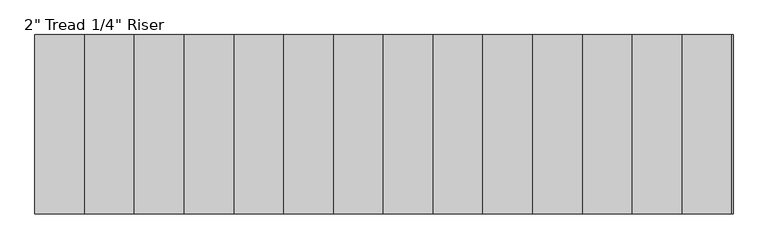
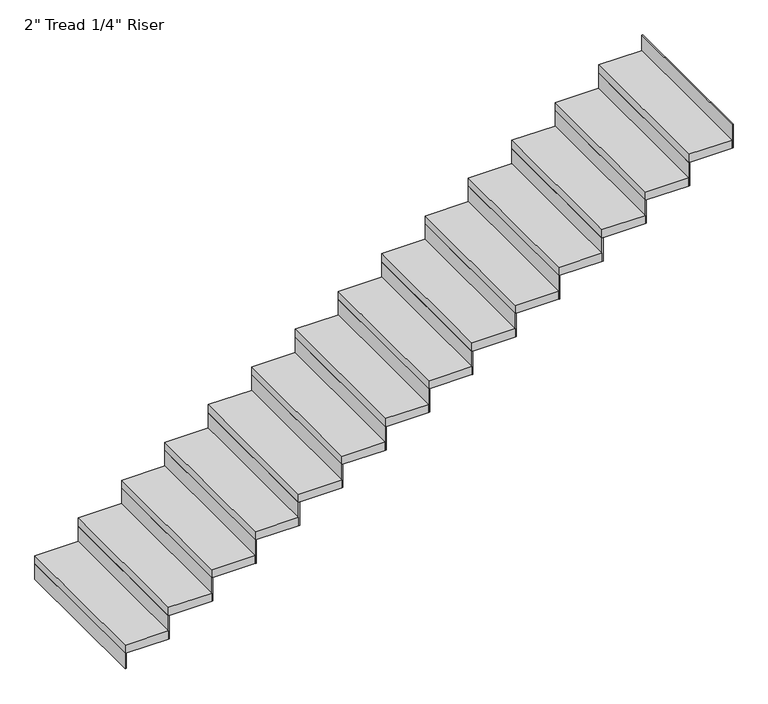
"""IFC4 building model written with IfcOpenShell, lengths in millimetres: stair flight geometry."""

from ifc_helpers import new_model, si_unit, frame, origin, origin_with_axes, place, context, project, spatial, polyline, outline, extrude, source, transform, mapped, element, save


def stair_flight_39228297(model_context):
    return source(origin(), model_context, "Body", "SweptSolid", [
        extrude(outline(polyline([(157738.5528142, 32332.2812523), (157732.2028142, 32332.2812523), (157732.2028142, 33246.6812523), (157738.5528142, 33246.6812523), (157738.5528142, 32332.2812523)])), origin_with_axes(), (0.0, 0.0, 1.0), 94.3428571),
        extrude(outline(polyline([(157986.2028142, 33246.6812523), (157986.2028142, 32332.2812523), (157732.2028142, 32332.2812523), (157732.2028142, 33246.6812523), (157986.2028142, 33246.6812523)])), frame((0.0, 0.0, 94.3428571), z_axis=(0.0, 0.0, 1.0), x_axis=(1.0, 0.0, 0.0)), (0.0, 0.0, 1.0), 50.8),
        extrude(outline(polyline([(157992.5528142, 32332.2812523), (157986.2028142, 32332.2812523), (157986.2028142, 33246.6812523), (157992.5528142, 33246.6812523), (157992.5528142, 32332.2812523)])), frame((0.0, 0.0, 94.3428571), z_axis=(0.0, 0.0, 1.0), x_axis=(1.0, 0.0, 0.0)), (0.0, 0.0, 1.0), 145.1428571),
        extrude(outline(polyline([(158240.2028142, 33246.6812523), (158240.2028142, 32332.2812523), (157986.2028142, 32332.2812523), (157986.2028142, 33246.6812523), (158240.2028142, 33246.6812523)])), frame((0.0, 0.0, 239.4857143), z_axis=(0.0, 0.0, 1.0), x_axis=(1.0, 0.0, 0.0)), (0.0, 0.0, 1.0), 50.8),
        extrude(outline(polyline([(158246.5528142, 32332.2812523), (158240.2028142, 32332.2812523), (158240.2028142, 33246.6812523), (158246.5528142, 33246.6812523), (158246.5528142, 32332.2812523)])), frame((0.0, 0.0, 239.4857143), z_axis=(0.0, 0.0, 1.0), x_axis=(1.0, 0.0, 0.0)), (0.0, 0.0, 1.0), 145.1428571),
        extrude(outline(polyline([(158494.2028142, 33246.6812523), (158494.2028142, 32332.2812523), (158240.2028142, 32332.2812523), (158240.2028142, 33246.6812523), (158494.2028142, 33246.6812523)])), frame((0.0, 0.0, 384.6285714), z_axis=(0.0, 0.0, 1.0), x_axis=(1.0, 0.0, 0.0)), (0.0, 0.0, 1.0), 50.8),
        extrude(outline(polyline([(158500.5528142, 32332.2812523), (158494.2028142, 32332.2812523), (158494.2028142, 33246.6812523), (158500.5528142, 33246.6812523), (158500.5528142, 32332.2812523)])), frame((0.0, 0.0, 384.6285714), z_axis=(0.0, 0.0, 1.0), x_axis=(1.0, 0.0, 0.0)), (0.0, 0.0, 1.0), 145.1428571),
        extrude(outline(polyline([(158748.2028142, 33246.6812523), (158748.2028142, 32332.2812523), (158494.2028142, 32332.2812523), (158494.2028142, 33246.6812523), (158748.2028142, 33246.6812523)])), frame((0.0, 0.0, 529.7714286), z_axis=(0.0, 0.0, 1.0), x_axis=(1.0, 0.0, 0.0)), (0.0, 0.0, 1.0), 50.8),
        extrude(outline(polyline([(158754.5528142, 32332.2812523), (158748.2028142, 32332.2812523), (158748.2028142, 33246.6812523), (158754.5528142, 33246.6812523), (158754.5528142, 32332.2812523)])), frame((0.0, 0.0, 529.7714286), z_axis=(0.0, 0.0, 1.0), x_axis=(1.0, 0.0, 0.0)), (0.0, 0.0, 1.0), 145.1428571),
        extrude(outline(polyline([(159002.2028142, 33246.6812523), (159002.2028142, 32332.2812523), (158748.2028142, 32332.2812523), (158748.2028142, 33246.6812523), (159002.2028142, 33246.6812523)])), frame((0.0, 0.0, 674.9142857), z_axis=(0.0, 0.0, 1.0), x_axis=(1.0, 0.0, 0.0)), (0.0, 0.0, 1.0), 50.8),
        extrude(outline(polyline([(159008.5528142, 32332.2812523), (159002.2028142, 32332.2812523), (159002.2028142, 33246.6812523), (159008.5528142, 33246.6812523), (159008.5528142, 32332.2812523)])), frame((0.0, 0.0, 674.9142857), z_axis=(0.0, 0.0, 1.0), x_axis=(1.0, 0.0, 0.0)), (0.0, 0.0, 1.0), 145.1428571),
        extrude(outline(polyline([(159256.2028142, 33246.6812523), (159256.2028142, 32332.2812523), (159002.2028142, 32332.2812523), (159002.2028142, 33246.6812523), (159256.2028142, 33246.6812523)])), frame((0.0, 0.0, 820.0571429), z_axis=(0.0, 0.0, 1.0), x_axis=(1.0, 0.0, 0.0)), (0.0, 0.0, 1.0), 50.8),
        extrude(outline(polyline([(159262.5528142, 32332.2812523), (159256.2028142, 32332.2812523), (159256.2028142, 33246.6812523), (159262.5528142, 33246.6812523), (159262.5528142, 32332.2812523)])), frame((0.0, 0.0, 820.0571429), z_axis=(0.0, 0.0, 1.0), x_axis=(1.0, 0.0, 0.0)), (0.0, 0.0, 1.0), 145.1428571),
        extrude(outline(polyline([(159510.2028142, 33246.6812523), (159510.2028142, 32332.2812523), (159256.2028142, 32332.2812523), (159256.2028142, 33246.6812523), (159510.2028142, 33246.6812523)])), frame((0.0, 0.0, 965.2), z_axis=(0.0, 0.0, 1.0), x_axis=(1.0, 0.0, 0.0)), (0.0, 0.0, 1.0), 50.8),
        extrude(outline(polyline([(159516.5528142, 32332.2812523), (159510.2028142, 32332.2812523), (159510.2028142, 33246.6812523), (159516.5528142, 33246.6812523), (159516.5528142, 32332.2812523)])), frame((0.0, 0.0, 965.2), z_axis=(0.0, 0.0, 1.0), x_axis=(1.0, 0.0, 0.0)), (0.0, 0.0, 1.0), 145.1428571),
        extrude(outline(polyline([(159764.2028142, 33246.6812523), (159764.2028142, 32332.2812523), (159510.2028142, 32332.2812523), (159510.2028142, 33246.6812523), (159764.2028142, 33246.6812523)])), frame((0.0, 0.0, 1110.3428571), z_axis=(0.0, 0.0, 1.0), x_axis=(1.0, 0.0, 0.0)), (0.0, 0.0, 1.0), 50.8),
        extrude(outline(polyline([(159770.5528142, 32332.2812523), (159764.2028142, 32332.2812523), (159764.2028142, 33246.6812523), (159770.5528142, 33246.6812523), (159770.5528142, 32332.2812523)])), frame((0.0, 0.0, 1110.3428571), z_axis=(0.0, 0.0, 1.0), x_axis=(1.0, 0.0, 0.0)), (0.0, 0.0, 1.0), 145.1428571),
        extrude(outline(polyline([(160018.2028142, 33246.6812523), (160018.2028142, 32332.2812523), (159764.2028142, 32332.2812523), (159764.2028142, 33246.6812523), (160018.2028142, 33246.6812523)])), frame((0.0, 0.0, 1255.4857143), z_axis=(0.0, 0.0, 1.0), x_axis=(1.0, 0.0, 0.0)), (0.0, 0.0, 1.0), 50.8),
        extrude(outline(polyline([(160024.5528142, 32332.2812523), (160018.2028142, 32332.2812523), (160018.2028142, 33246.6812523), (160024.5528142, 33246.6812523), (160024.5528142, 32332.2812523)])), frame((0.0, 0.0, 1255.4857143), z_axis=(0.0, 0.0, 1.0), x_axis=(1.0, 0.0, 0.0)), (0.0, 0.0, 1.0), 145.1428571),
        extrude(outline(polyline([(160272.2028142, 33246.6812523), (160272.2028142, 32332.2812523), (160018.2028142, 32332.2812523), (160018.2028142, 33246.6812523), (160272.2028142, 33246.6812523)])), frame((0.0, 0.0, 1400.6285714), z_axis=(0.0, 0.0, 1.0), x_axis=(1.0, 0.0, 0.0)), (0.0, 0.0, 1.0), 50.8),
        extrude(outline(polyline([(160278.5528142, 32332.2812523), (160272.2028142, 32332.2812523), (160272.2028142, 33246.6812523), (160278.5528142, 33246.6812523), (160278.5528142, 32332.2812523)])), frame((0.0, 0.0, 1400.6285714), z_axis=(0.0, 0.0, 1.0), x_axis=(1.0, 0.0, 0.0)), (0.0, 0.0, 1.0), 145.1428571),
        extrude(outline(polyline([(160526.2028142, 33246.6812523), (160526.2028142, 32332.2812523), (160272.2028142, 32332.2812523), (160272.2028142, 33246.6812523), (160526.2028142, 33246.6812523)])), frame((0.0, 0.0, 1545.7714286), z_axis=(0.0, 0.0, 1.0), x_axis=(1.0, 0.0, 0.0)), (0.0, 0.0, 1.0), 50.8),
        extrude(outline(polyline([(160532.5528142, 32332.2812523), (160526.2028142, 32332.2812523), (160526.2028142, 33246.6812523), (160532.5528142, 33246.6812523), (160532.5528142, 32332.2812523)])), frame((0.0, 0.0, 1545.7714286), z_axis=(0.0, 0.0, 1.0), x_axis=(1.0, 0.0, 0.0)), (0.0, 0.0, 1.0), 145.1428571),
        extrude(outline(polyline([(160780.2028142, 33246.6812523), (160780.2028142, 32332.2812523), (160526.2028142, 32332.2812523), (160526.2028142, 33246.6812523), (160780.2028142, 33246.6812523)])), frame((0.0, 0.0, 1690.9142857), z_axis=(0.0, 0.0, 1.0), x_axis=(1.0, 0.0, 0.0)), (0.0, 0.0, 1.0), 50.8),
        extrude(outline(polyline([(160786.5528142, 32332.2812523), (160780.2028142, 32332.2812523), (160780.2028142, 33246.6812523), (160786.5528142, 33246.6812523), (160786.5528142, 32332.2812523)])), frame((0.0, 0.0, 1690.9142857), z_axis=(0.0, 0.0, 1.0), x_axis=(1.0, 0.0, 0.0)), (0.0, 0.0, 1.0), 145.1428571),
        extrude(outline(polyline([(161034.2028142, 33246.6812523), (161034.2028142, 32332.2812523), (160780.2028142, 32332.2812523), (160780.2028142, 33246.6812523), (161034.2028142, 33246.6812523)])), frame((0.0, 0.0, 1836.0571429), z_axis=(0.0, 0.0, 1.0), x_axis=(1.0, 0.0, 0.0)), (0.0, 0.0, 1.0), 50.8),
        extrude(outline(polyline([(161040.5528142, 32332.2812523), (161034.2028142, 32332.2812523), (161034.2028142, 33246.6812523), (161040.5528142, 33246.6812523), (161040.5528142, 32332.2812523)])), frame((0.0, 0.0, 1836.0571429), z_axis=(0.0, 0.0, 1.0), x_axis=(1.0, 0.0, 0.0)), (0.0, 0.0, 1.0), 145.1428571),
        extrude(outline(polyline([(161294.5528142, 32332.2812523), (161288.2028142, 32332.2812523), (161288.2028142, 33246.6812523), (161294.5528142, 33246.6812523), (161294.5528142, 32332.2812523)])), frame((0.0, 0.0, 1981.2), z_axis=(0.0, 0.0, 1.0), x_axis=(1.0, 0.0, 0.0)), (0.0, 0.0, 1.0), 145.1428571),
        extrude(outline(polyline([(161288.2028142, 33246.6812523), (161288.2028142, 32332.2812523), (161034.2028142, 32332.2812523), (161034.2028142, 33246.6812523), (161288.2028142, 33246.6812523)])), frame((0.0, 0.0, 1981.2), z_axis=(0.0, 0.0, 1.0), x_axis=(1.0, 0.0, 0.0)), (0.0, 0.0, 1.0), 50.8),
    ])


if __name__ == "__main__":
    model = new_model("IFC4")
    model_context = context("Model", 3, world=origin())
    ifc_project = project(units=[si_unit("LENGTHUNIT", "METRE", prefix="MILLI")], contexts=[model_context])
    site = spatial("IfcSite", under=ifc_project)
    building = spatial("IfcBuilding", under=site)
    placement = place(None, origin())
    stair_flight_shape = stair_flight_39228297(model_context)
    element("IfcStairFlight", 1, ObjectType="2\" Tread 1/4\" Riser", at=placement, inside=building, context=model_context, shape_type="MappedRepresentation", body=[
        mapped(stair_flight_shape, transform((0.0, 0.0, 0.0), x_axis=(1.0, 0.0, 0.0), y_axis=(0.0, 1.0, 0.0), z_axis=(0.0, 0.0, 1.0))),
    ])
    save(model, "model.ifc")
